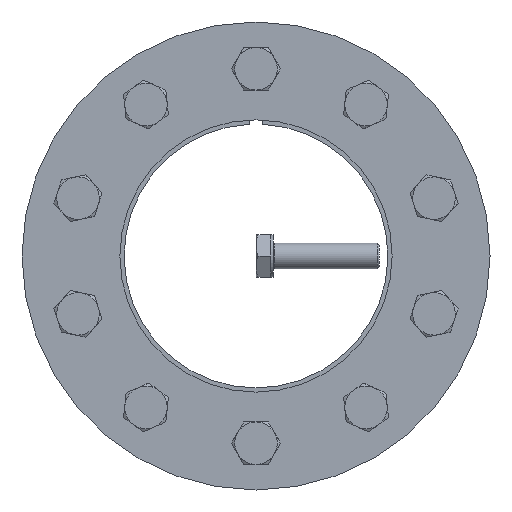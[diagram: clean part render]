
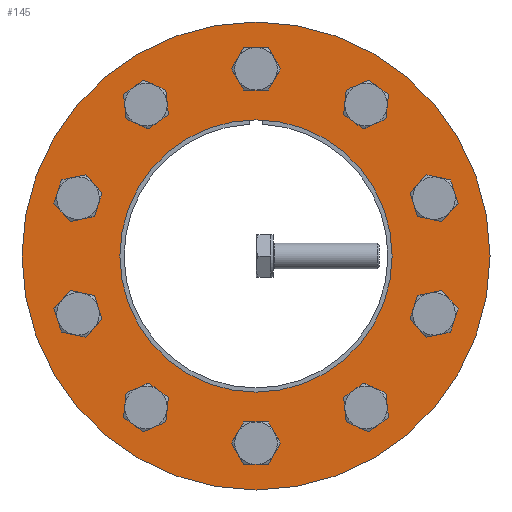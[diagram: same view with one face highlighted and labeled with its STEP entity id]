
A CAD part, front view. The second image highlights one B-rep face of the part: STEP entity #145.
In plain terms, the highlighted planar face has unit normal (0, -1, 0).
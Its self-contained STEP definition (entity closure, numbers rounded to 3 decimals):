
#145 = ADVANCED_FACE( '', ( #345, #346, #347, #348, #349, #350, #351, #352, #353, #354, #355, #356 ), #357, .F. );
#345 = FACE_BOUND( '', #578, .T. );
#346 = FACE_BOUND( '', #579, .T. );
#347 = FACE_BOUND( '', #580, .T. );
#348 = FACE_BOUND( '', #581, .T. );
#349 = FACE_BOUND( '', #582, .T. );
#350 = FACE_BOUND( '', #583, .T. );
#351 = FACE_OUTER_BOUND( '', #584, .T. );
#352 = FACE_BOUND( '', #585, .T. );
#353 = FACE_BOUND( '', #586, .T. );
#354 = FACE_BOUND( '', #587, .T. );
#355 = FACE_BOUND( '', #588, .T. );
#356 = FACE_BOUND( '', #589, .T. );
#357 = PLANE( '', #590 );
#578 = EDGE_LOOP( '', ( #945 ) );
#579 = EDGE_LOOP( '', ( #946 ) );
#580 = EDGE_LOOP( '', ( #947 ) );
#581 = EDGE_LOOP( '', ( #948 ) );
#582 = EDGE_LOOP( '', ( #949 ) );
#583 = EDGE_LOOP( '', ( #950 ) );
#584 = EDGE_LOOP( '', ( #951 ) );
#585 = EDGE_LOOP( '', ( #952 ) );
#586 = EDGE_LOOP( '', ( #953 ) );
#587 = EDGE_LOOP( '', ( #954 ) );
#588 = EDGE_LOOP( '', ( #955 ) );
#589 = EDGE_LOOP( '', ( #956 ) );
#590 = AXIS2_PLACEMENT_3D( '', #957, #958, #959 );
#945 = ORIENTED_EDGE( '', *, *, #1118, .T. );
#946 = ORIENTED_EDGE( '', *, *, #1140, .T. );
#947 = ORIENTED_EDGE( '', *, *, #1201, .T. );
#948 = ORIENTED_EDGE( '', *, *, #1169, .T. );
#949 = ORIENTED_EDGE( '', *, *, #1129, .T. );
#950 = ORIENTED_EDGE( '', *, *, #1210, .F. );
#951 = ORIENTED_EDGE( '', *, *, #1115, .T. );
#952 = ORIENTED_EDGE( '', *, *, #1126, .T. );
#953 = ORIENTED_EDGE( '', *, *, #1192, .T. );
#954 = ORIENTED_EDGE( '', *, *, #1121, .T. );
#955 = ORIENTED_EDGE( '', *, *, #1181, .T. );
#956 = ORIENTED_EDGE( '', *, *, #1211, .T. );
#957 = CARTESIAN_POINT( '', ( 0., -15.25, 55. ) );
#958 = DIRECTION( '', ( 0., 1., 0. ) );
#959 = DIRECTION( '', ( 0., 0., 1. ) );
#1115 = EDGE_CURVE( '', #1317, #1317, #1318, .T. );
#1118 = EDGE_CURVE( '', #1322, #1322, #1323, .T. );
#1121 = EDGE_CURVE( '', #1327, #1327, #1328, .T. );
#1126 = EDGE_CURVE( '', #1335, #1335, #1336, .T. );
#1129 = EDGE_CURVE( '', #1340, #1340, #1341, .T. );
#1140 = EDGE_CURVE( '', #1359, #1359, #1360, .T. );
#1169 = EDGE_CURVE( '', #1411, #1411, #1412, .T. );
#1181 = EDGE_CURVE( '', #1428, #1428, #1429, .T. );
#1192 = EDGE_CURVE( '', #1443, #1443, #1444, .T. );
#1201 = EDGE_CURVE( '', #1455, #1455, #1456, .T. );
#1210 = EDGE_CURVE( '', #1465, #1465, #1466, .T. );
#1211 = EDGE_CURVE( '', #1467, #1467, #1468, .T. );
#1317 = VERTEX_POINT( '', #1691 );
#1318 = CIRCLE( '', #1692, 55. );
#1322 = VERTEX_POINT( '', #1696 );
#1323 = CIRCLE( '', #1697, 3. );
#1327 = VERTEX_POINT( '', #1701 );
#1328 = CIRCLE( '', #1702, 3. );
#1335 = VERTEX_POINT( '', #1709 );
#1336 = CIRCLE( '', #1710, 3. );
#1340 = VERTEX_POINT( '', #1714 );
#1341 = CIRCLE( '', #1715, 3. );
#1359 = VERTEX_POINT( '', #1735 );
#1360 = CIRCLE( '', #1736, 3. );
#1411 = VERTEX_POINT( '', #1790 );
#1412 = CIRCLE( '', #1791, 3. );
#1428 = VERTEX_POINT( '', #1819 );
#1429 = CIRCLE( '', #1820, 3. );
#1443 = VERTEX_POINT( '', #1838 );
#1444 = CIRCLE( '', #1839, 3. );
#1455 = VERTEX_POINT( '', #1856 );
#1456 = CIRCLE( '', #1857, 3. );
#1465 = VERTEX_POINT( '', #1872 );
#1466 = CIRCLE( '', #1873, 32. );
#1467 = VERTEX_POINT( '', #1874 );
#1468 = CIRCLE( '', #1875, 3. );
#1691 = CARTESIAN_POINT( '', ( 0., -15.25, -55. ) );
#1692 = AXIS2_PLACEMENT_3D( '', #1981, #1982, #1983 );
#1696 = CARTESIAN_POINT( '', ( -40.919, -15.25, 16.45 ) );
#1697 = AXIS2_PLACEMENT_3D( '', #1987, #1988, #1989 );
#1701 = CARTESIAN_POINT( '', ( -3., -15.25, -44. ) );
#1702 = AXIS2_PLACEMENT_3D( '', #1993, #1994, #1995 );
#1709 = CARTESIAN_POINT( '', ( 28.29, -15.25, 33.833 ) );
#1710 = AXIS2_PLACEMENT_3D( '', #2002, #2003, #2004 );
#1714 = CARTESIAN_POINT( '', ( 3., -15.25, 44. ) );
#1715 = AXIS2_PLACEMENT_3D( '', #2008, #2009, #2010 );
#1735 = CARTESIAN_POINT( '', ( -28.29, -15.25, -33.833 ) );
#1736 = AXIS2_PLACEMENT_3D( '', #2028, #2029, #2030 );
#1790 = CARTESIAN_POINT( '', ( 42.774, -15.25, 10.744 ) );
#1791 = AXIS2_PLACEMENT_3D( '', #2091, #2092, #2093 );
#1819 = CARTESIAN_POINT( '', ( -42.774, -15.25, -10.744 ) );
#1820 = AXIS2_PLACEMENT_3D( '', #2100, #2101, #2102 );
#1838 = CARTESIAN_POINT( '', ( 40.919, -15.25, -16.45 ) );
#1839 = AXIS2_PLACEMENT_3D( '', #2113, #2114, #2115 );
#1856 = CARTESIAN_POINT( '', ( 23.436, -15.25, -37.36 ) );
#1857 = AXIS2_PLACEMENT_3D( '', #2122, #2123, #2124 );
#1872 = CARTESIAN_POINT( '', ( 0., -15.25, -32. ) );
#1873 = AXIS2_PLACEMENT_3D( '', #2128, #2129, #2130 );
#1874 = CARTESIAN_POINT( '', ( -23.436, -15.25, 37.36 ) );
#1875 = AXIS2_PLACEMENT_3D( '', #2131, #2132, #2133 );
#1981 = CARTESIAN_POINT( '', ( 0., -15.25, 0. ) );
#1982 = DIRECTION( '', ( 0., -1., 0. ) );
#1983 = DIRECTION( '', ( 0., 0., -1. ) );
#1987 = CARTESIAN_POINT( '', ( -41.846, -15.25, 13.597 ) );
#1988 = DIRECTION( '', ( 0., 1., 0. ) );
#1989 = DIRECTION( '', ( 0.309, 0., 0.951 ) );
#1993 = CARTESIAN_POINT( '', ( 0., -15.25, -44. ) );
#1994 = DIRECTION( '', ( 0., 1., 0. ) );
#1995 = DIRECTION( '', ( -1., 0., 0. ) );
#2002 = CARTESIAN_POINT( '', ( 25.863, -15.25, 35.597 ) );
#2003 = DIRECTION( '', ( 0., 1., 0. ) );
#2004 = DIRECTION( '', ( 0.809, 0., -0.588 ) );
#2008 = CARTESIAN_POINT( '', ( 0., -15.25, 44. ) );
#2009 = DIRECTION( '', ( 0., 1., 0. ) );
#2010 = DIRECTION( '', ( 1., 0., 0. ) );
#2028 = CARTESIAN_POINT( '', ( -25.863, -15.25, -35.597 ) );
#2029 = DIRECTION( '', ( 0., 1., 0. ) );
#2030 = DIRECTION( '', ( -0.809, 0., 0.588 ) );
#2091 = CARTESIAN_POINT( '', ( 41.846, -15.25, 13.597 ) );
#2092 = DIRECTION( '', ( 0., 1., 0. ) );
#2093 = DIRECTION( '', ( 0.309, 0., -0.951 ) );
#2100 = CARTESIAN_POINT( '', ( -41.846, -15.25, -13.597 ) );
#2101 = DIRECTION( '', ( 0., 1., 0. ) );
#2102 = DIRECTION( '', ( -0.309, 0., 0.951 ) );
#2113 = CARTESIAN_POINT( '', ( 41.846, -15.25, -13.597 ) );
#2114 = DIRECTION( '', ( 0., 1., 0. ) );
#2115 = DIRECTION( '', ( -0.309, 0., -0.951 ) );
#2122 = CARTESIAN_POINT( '', ( 25.863, -15.25, -35.597 ) );
#2123 = DIRECTION( '', ( 0., 1., 0. ) );
#2124 = DIRECTION( '', ( -0.809, 0., -0.588 ) );
#2128 = CARTESIAN_POINT( '', ( 0., -15.25, 0. ) );
#2129 = DIRECTION( '', ( 0., -1., 0. ) );
#2130 = DIRECTION( '', ( 0., 0., -1. ) );
#2131 = CARTESIAN_POINT( '', ( -25.863, -15.25, 35.597 ) );
#2132 = DIRECTION( '', ( 0., 1., 0. ) );
#2133 = DIRECTION( '', ( 0.809, 0., 0.588 ) );
